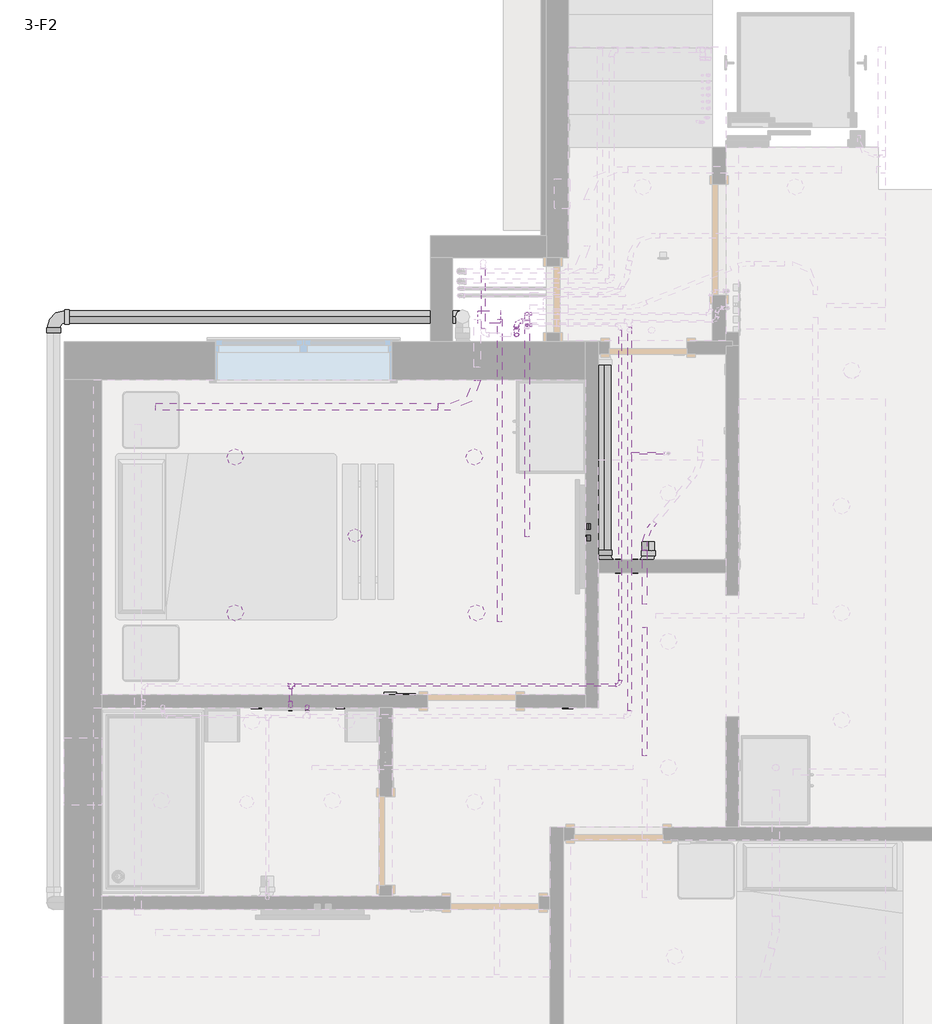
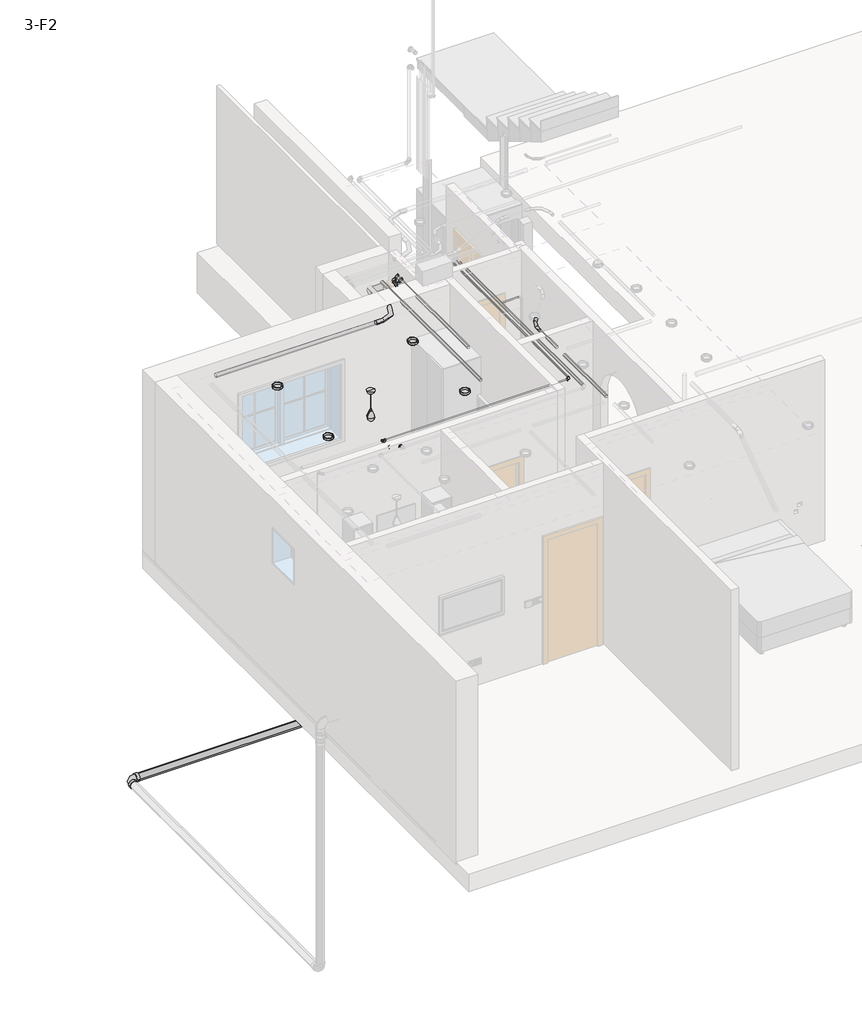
# One storey, part 7 of 12: 20 pipe segments, 17 pipe fittings, 7 proxies, 5 cable carrier segments, 5 light fixtures, 3 electric appliances, 3 switching devices, 2 cable carrier fittings.
"""IFC4 building model written with IfcOpenShell, lengths in millimetres."""

from ifc_helpers import new_model, si_unit, point, frame, frame_2d, origin, place, context, project, spatial, circle_curve, trimmed, segment, composite_curve, outline, extrude, transform, mapped, element, save
from components import m_thermostat_standard_b920d14f, wall_mounted_socket_ups_wall_mounted_socket_ups_4524048d, wall_mounted_socket_ups_wall_mounted_socket_ups_45274923, m_conduit_elbow_aluminum_standard_a49322c3, m_conduit_elbow_aluminum_standard_c7115e71, wall_mounted_data_socket_wall_mounted_data_socket_ap_474314e8, wall_mounted_data_socket_wall_mounted_data_socket_ap_766e5305, m_downlight_recessed_can_152mm_incandescent_120v_1ee42939, m_pendant_lamp_art_glass_led_standard_2036dae1, m_bend_pvc_sch_40_dwv_standard_1fb0f857, m_bend_pvc_sch_40_dwv_standard_738aab8b, m_bend_pvc_sch_40_dwv_standard_b153bf5a, m_bend_pvc_sch_40_dwv_standard_42e46e6b, m_bend_pvc_sch_40_dwv_standard_ad3fa52a, m_bend_pvc_sch_40_dwv_standard_cb2c61c2, m_tee_reducing_sanitary_pvc_sch_40_dwv_standard_53539b48, m_tee_reducing_sanitary_pvc_sch_40_dwv_standard_6f77613a, m_tee_sanitary_pvc_sch_40_dwv_standard_d1848222, switching_device_8f59fbb7, switching_device_ab05ab5c

model = new_model("IFC4")

# Units and contexts
model_context = context("Model", 3, world=origin())
ifc_project = project(units=[si_unit("LENGTHUNIT", "METRE", prefix="MILLI")], contexts=[model_context])

# Site, building, storey
site = spatial("IfcSite", under=ifc_project)
building = spatial("IfcBuilding", under=site)
storey = spatial("IfcBuildingStorey", under=building, Name="3-F2", Elevation=6550.0)

# Proxies
placement = place(None, origin())
m_thermostat_standard_shape = m_thermostat_standard_b920d14f(model_context)
element("IfcBuildingElementProxy", 1, Name="M_Thermostat : Standard", ObjectType="M_Thermostat : Standard", at=placement, inside=storey, context=model_context, shape_type="MappedRepresentation", body=[
    mapped(m_thermostat_standard_shape, transform((-6469.7814219, 140.1275048, 7750.0), x_axis=(-1.0, 0.0, 0.0), y_axis=(0.0, 0.0, 1.0), z_axis=(0.0, 1.0, 0.0))),
])
wall_mounted_socket_ups_wall_mounted_socket_ups_shape = wall_mounted_socket_ups_wall_mounted_socket_ups_4524048d(model_context)
element("IfcBuildingElementProxy", 2, Name="WALL MOUNTED SOCKET : WALL MOUNTED SOCKET", ObjectType="WALL MOUNTED SOCKET : WALL MOUNTED SOCKET", at=placement, inside=storey, context=model_context, shape_type="MappedRepresentation", body=[
    mapped(wall_mounted_socket_ups_wall_mounted_socket_ups_shape, transform((-4865.4457195, 20.1275048, 7000.0), x_axis=(1.0, 0.0, 0.0), y_axis=(0.0, 0.0, 1.0), z_axis=(0.0, -1.0, 0.0))),
])
element("IfcBuildingElementProxy", 3, Name="WALL MOUNTED SOCKET UPS : WALL MOUNTED SOCKET UPS", ObjectType="WALL MOUNTED SOCKET UPS : WALL MOUNTED SOCKET UPS", at=placement, inside=storey, context=model_context, shape_type="MappedRepresentation", body=[
    mapped(wall_mounted_socket_ups_wall_mounted_socket_ups_shape, transform((-4707.4765921, 1660.1275048, 7000.0), x_axis=(0.0, -1.0, 0.0), y_axis=(0.0, 0.0, 1.0), z_axis=(-1.0, 0.0, 0.0))),
])
element("IfcBuildingElementProxy", 4, Name="WALL MOUNTED SOCKET UPS : WALL MOUNTED SOCKET UPS", ObjectType="WALL MOUNTED SOCKET UPS : WALL MOUNTED SOCKET UPS", at=placement, inside=storey, context=model_context, shape_type="MappedRepresentation", body=[
    mapped(wall_mounted_socket_ups_wall_mounted_socket_ups_shape, transform((-9147.4765921, 2563.4038048, 7350.0), x_axis=(0.0, 1.0, 0.0), y_axis=(0.0, 0.0, 1.0), z_axis=(1.0, 0.0, 0.0))),
])
element("IfcBuildingElementProxy", 5, Name="WALL MOUNTED SOCKET UPS : WALL MOUNTED SOCKET UPS", ObjectType="WALL MOUNTED SOCKET UPS : WALL MOUNTED SOCKET UPS", at=placement, inside=storey, context=model_context, shape_type="MappedRepresentation", body=[
    mapped(wall_mounted_socket_ups_wall_mounted_socket_ups_shape, transform((-4707.4765921, 1660.1275048, 7750.0), x_axis=(0.0, -1.0, 0.0), y_axis=(0.0, 0.0, 1.0), z_axis=(-1.0, 0.0, 0.0))),
])
element("IfcBuildingElementProxy", 6, Name="WALL MOUNTED SOCKET UPS : WALL MOUNTED SOCKET UPS", ObjectType="WALL MOUNTED SOCKET UPS : WALL MOUNTED SOCKET UPS", at=placement, inside=storey, context=model_context, shape_type="MappedRepresentation", body=[
    mapped(wall_mounted_socket_ups_wall_mounted_socket_ups_shape, transform((-6909.7814219, 20.1275048, 7650.0), x_axis=(1.0, 0.0, 0.0), y_axis=(0.0, 0.0, 1.0), z_axis=(0.0, -1.0, 0.0))),
])
wall_mounted_socket_ups_wall_mounted_socket_ups_2_shape = wall_mounted_socket_ups_wall_mounted_socket_ups_45274923(model_context)
element("IfcBuildingElementProxy", 7, Name="WALL MOUNTED SOCKET UPS : WALL MOUNTED SOCKET UPS", ObjectType="WALL MOUNTED SOCKET UPS : WALL MOUNTED SOCKET UPS", at=placement, inside=storey, context=model_context, shape_type="MappedRepresentation", body=[
    mapped(wall_mounted_socket_ups_wall_mounted_socket_ups_2_shape, transform((-7680.0, 20.1275048, 7650.0), x_axis=(-1.0, 0.0, 0.0), y_axis=(0.0, 0.0, -1.0), z_axis=(0.0, -1.0, 0.0))),
])

# Cable carrier fittings
m_conduit_elbow_aluminum_standard_shape = m_conduit_elbow_aluminum_standard_a49322c3(model_context)
element("IfcCableCarrierFitting", 8, ObjectType="M_Conduit Elbow - Aluminum : Standard", at=placement, inside=storey, context=model_context, shape_type="MappedRepresentation", body=[
    mapped(m_conduit_elbow_aluminum_standard_shape, transform((-5682.4765921, 2740.4291386, 9619.835), x_axis=(0.999999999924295, 0.0, -1.2304879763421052e-05), y_axis=(0.0, 1.0, 0.0), z_axis=(1.2304879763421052e-05, 0.0, 0.999999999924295))),
])
m_conduit_elbow_aluminum_standard_2_shape = m_conduit_elbow_aluminum_standard_c7115e71(model_context)
element("IfcCableCarrierFitting", 9, ObjectType="M_Conduit Elbow - Aluminum : Standard", at=placement, inside=storey, context=model_context, shape_type="MappedRepresentation", body=[
    mapped(m_conduit_elbow_aluminum_standard_2_shape, transform((-4171.5261339, 1587.8367648, 9630.825), x_axis=(-0.6427876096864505, -0.7660444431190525, 0.0), y_axis=(0.7660444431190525, -0.6427876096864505, 0.0), z_axis=(0.0, 0.0, 1.0))),
])

# Cable carrier segments
element("IfcCableCarrierSegment", 10, ObjectType="Power", at=placement, inside=storey, context=model_context, shape_type="SweptSolid", body=[
    extrude(outline(composite_curve([segment(trimmed(circle_curve(frame_2d((0.0, 30.165)), 30.165), [point((-30.165, 30.165))], [point((0.0, 60.33))], False, "CARTESIAN"), True, "CONTINUOUS"), segment(trimmed(circle_curve(frame_2d((0.0, 30.165)), 30.165), [point((0.0, 60.33))], [point((30.165, 30.165))], False, "CARTESIAN"), True, "CONTINUOUS"), segment(trimmed(circle_curve(frame_2d((0.0, 30.165)), 30.165), [point((30.165, 30.165))], [point((0.0, 0.0))], False, "CARTESIAN"), True, "CONTINUOUS"), segment(trimmed(circle_curve(frame_2d((0.0, 30.165)), 30.165), [point((0.0, 0.0))], [point((-30.165, 30.165))], False, "CARTESIAN"), True, "CONTINUOUS")], self_intersect=False)), frame((-6038.076964, 2740.4291386, 9589.6743756), z_axis=(-0.9999999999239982, 0.0, 1.2328981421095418e-05), x_axis=(0.0, -1.0, 0.0)), (0.0, 0.0, 1.0), 2552.7048295),
])
element("IfcCableCarrierSegment", 11, ObjectType="Power", at=placement, inside=storey, context=model_context, shape_type="SweptSolid", body=[
    extrude(outline(composite_curve([segment(trimmed(circle_curve(frame_2d((9628.92, -5232.2814219)), 21.08), [point((9628.92, -5211.2014219))], [point((9650.0, -5232.2814219))], False, "CARTESIAN"), True, "CONTINUOUS"), segment(trimmed(circle_curve(frame_2d((9628.92, -5232.2814219)), 21.08), [point((9650.0, -5232.2814219))], [point((9628.92, -5253.3614219))], False, "CARTESIAN"), True, "CONTINUOUS"), segment(trimmed(circle_curve(frame_2d((9628.92, -5232.2814219)), 21.08), [point((9628.92, -5253.3614219))], [point((9607.84, -5232.2814219))], False, "CARTESIAN"), True, "CONTINUOUS"), segment(trimmed(circle_curve(frame_2d((9628.92, -5232.2814219)), 21.08), [point((9607.84, -5232.2814219))], [point((9628.92, -5211.2014219))], False, "CARTESIAN"), True, "CONTINUOUS")], self_intersect=False)), frame((0.0, 1567.2917851, 0.0), z_axis=(0.0, 1.0, 0.0), x_axis=(0.0, 0.0, 1.0)), (0.0, 0.0, 1.0), 1964.4516808),
])
element("IfcCableCarrierSegment", 12, ObjectType="Power", at=placement, inside=storey, context=model_context, shape_type="SweptSolid", body=[
    extrude(outline(composite_curve([segment(trimmed(circle_curve(frame_2d((9630.825, -4171.5261339)), 21.08), [point((9630.825, -4150.4461339))], [point((9651.905, -4171.5261339))], False, "CARTESIAN"), True, "CONTINUOUS"), segment(trimmed(circle_curve(frame_2d((9630.825, -4171.5261339)), 21.08), [point((9651.905, -4171.5261339))], [point((9630.825, -4192.6061339))], False, "CARTESIAN"), True, "CONTINUOUS"), segment(trimmed(circle_curve(frame_2d((9630.825, -4171.5261339)), 21.08), [point((9630.825, -4192.6061339))], [point((9609.745, -4171.5261339))], False, "CARTESIAN"), True, "CONTINUOUS"), segment(trimmed(circle_curve(frame_2d((9630.825, -4171.5261339)), 21.08), [point((9609.745, -4171.5261339))], [point((9630.825, -4150.4461339))], False, "CARTESIAN"), True, "CONTINUOUS")], self_intersect=False)), frame((0.0, 957.6176449, 0.0), z_axis=(0.0, 1.0, 0.0), x_axis=(0.0, 0.0, 1.0)), (0.0, 0.0, 1.0), 486.9940013),
])
element("IfcCableCarrierSegment", 13, ObjectType="Power", at=placement, inside=storey, context=model_context, shape_type="SweptSolid", body=[
    extrude(outline(composite_curve([segment(trimmed(circle_curve(frame_2d((9630.825, -4171.5261339)), 21.08), [point((9630.825, -4150.4461339))], [point((9651.905, -4171.5261339))], False, "CARTESIAN"), True, "CONTINUOUS"), segment(trimmed(circle_curve(frame_2d((9630.825, -4171.5261339)), 21.08), [point((9651.905, -4171.5261339))], [point((9630.825, -4192.6061339))], False, "CARTESIAN"), True, "CONTINUOUS"), segment(trimmed(circle_curve(frame_2d((9630.825, -4171.5261339)), 21.08), [point((9630.825, -4192.6061339))], [point((9609.745, -4171.5261339))], False, "CARTESIAN"), True, "CONTINUOUS"), segment(trimmed(circle_curve(frame_2d((9630.825, -4171.5261339)), 21.08), [point((9609.745, -4171.5261339))], [point((9630.825, -4150.4461339))], False, "CARTESIAN"), True, "CONTINUOUS")], self_intersect=False)), frame((0.0, -413.5178652, 0.0), z_axis=(0.0, 1.0, 0.0), x_axis=(0.0, 0.0, 1.0)), (0.0, 0.0, 1.0), 1161.1355101),
])
element("IfcCableCarrierSegment", 14, ObjectType="Power", at=placement, inside=storey, context=model_context, shape_type="SweptSolid", body=[
    extrude(outline(composite_curve([segment(trimmed(circle_curve(frame_2d((9630.825, -5480.4457195)), 21.08), [point((9630.825, -5501.5257195))], [point((9609.745, -5480.4457195))], False, "CARTESIAN"), True, "CONTINUOUS"), segment(trimmed(circle_curve(frame_2d((9630.825, -5480.4457195)), 21.08), [point((9609.745, -5480.4457195))], [point((9630.825, -5459.3657195))], False, "CARTESIAN"), True, "CONTINUOUS"), segment(trimmed(circle_curve(frame_2d((9630.825, -5480.4457195)), 21.08), [point((9630.825, -5459.3657195))], [point((9651.905, -5480.4457195))], False, "CARTESIAN"), True, "CONTINUOUS"), segment(trimmed(circle_curve(frame_2d((9630.825, -5480.4457195)), 21.08), [point((9651.905, -5480.4457195))], [point((9630.825, -5501.5257195))], False, "CARTESIAN"), True, "CONTINUOUS")], self_intersect=False)), frame((0.0, 796.743466, 0.0), z_axis=(0.0, 1.0, 0.0), x_axis=(0.0, 0.0, 1.0)), (0.0, 0.0, 1.0), 2735.0),
])

# Electric appliances
wall_mounted_data_socket_wall_mounted_data_socket_ap_shape = wall_mounted_data_socket_wall_mounted_data_socket_ap_474314e8(model_context)
element("IfcElectricAppliance", 15, ObjectType="WALL MOUNTED DATA SOCKET : WALL MOUNTED DATA SOCKET AP", at=placement, inside=storey, context=model_context, shape_type="MappedRepresentation", body=[
    mapped(wall_mounted_data_socket_wall_mounted_data_socket_ap_shape, transform((-4707.4765921, 1553.3775048, 7000.0), x_axis=(0.0, -1.0, 0.0), y_axis=(0.0, 0.0, 1.0), z_axis=(-1.0, 0.0, 0.0))),
])
element("IfcElectricAppliance", 16, ObjectType="WALL MOUNTED DATA SOCKET : WALL MOUNTED DATA SOCKET AP", at=placement, inside=storey, context=model_context, shape_type="MappedRepresentation", body=[
    mapped(wall_mounted_data_socket_wall_mounted_data_socket_ap_shape, transform((-9147.4765921, 2618.7450957, 7250.0), x_axis=(0.0, 1.0, 0.0), y_axis=(0.0, 0.0, 1.0), z_axis=(1.0, 0.0, 0.0))),
])
wall_mounted_data_socket_wall_mounted_data_socket_ap_2_shape = wall_mounted_data_socket_wall_mounted_data_socket_ap_766e5305(model_context)
element("IfcElectricAppliance", 17, ObjectType="WALL MOUNTED DATA SOCKET : WALL MOUNTED DATA SOCKET AP", at=placement, inside=storey, context=model_context, shape_type="MappedRepresentation", body=[
    mapped(wall_mounted_data_socket_wall_mounted_data_socket_ap_2_shape, transform((-4707.4765921, 1553.8775048, 7750.0), x_axis=(0.0, 1.0, 0.0), y_axis=(0.0, 0.0, -1.0), z_axis=(-1.0, 0.0, 0.0))),
])

# Light fixtures
m_downlight_recessed_can_152mm_incandescent_120v_shape = m_downlight_recessed_can_152mm_incandescent_120v_1ee42939(model_context)
element("IfcLightFixture", 18, ObjectType="M_Downlight - Recessed Can : 203mm Incandescent - 277V", at=placement, inside=storey, context=model_context, shape_type="MappedRepresentation", body=[
    mapped(m_downlight_recessed_can_152mm_incandescent_120v_shape, transform((-5710.0538644, 2286.3055512, 6935.4), x_axis=(1.0, 0.0, 0.0), y_axis=(0.0, 1.0, 0.0), z_axis=(0.0, 0.0, 1.0))),
])
element("IfcLightFixture", 19, ObjectType="M_Downlight - Recessed Can : 203mm Incandescent - 277V", at=placement, inside=storey, context=model_context, shape_type="MappedRepresentation", body=[
    mapped(m_downlight_recessed_can_152mm_incandescent_120v_shape, transform((-7870.5121698, 2286.3055512, 6935.4), x_axis=(1.0, 0.0, 0.0), y_axis=(0.0, 1.0, 0.0), z_axis=(0.0, 0.0, 1.0))),
])
element("IfcLightFixture", 20, ObjectType="M_Downlight - Recessed Can : 203mm Incandescent - 277V", at=placement, inside=storey, context=model_context, shape_type="MappedRepresentation", body=[
    mapped(m_downlight_recessed_can_152mm_incandescent_120v_shape, transform((-7870.5121698, 879.1412709, 6935.4), x_axis=(1.0, 0.0, 0.0), y_axis=(0.0, 1.0, 0.0), z_axis=(0.0, 0.0, 1.0))),
])
element("IfcLightFixture", 21, ObjectType="M_Downlight - Recessed Can : 203mm Incandescent - 277V", at=placement, inside=storey, context=model_context, shape_type="MappedRepresentation", body=[
    mapped(m_downlight_recessed_can_152mm_incandescent_120v_shape, transform((-5690.0538644, 879.1412709, 6935.4), x_axis=(1.0, 0.0, 0.0), y_axis=(0.0, 1.0, 0.0), z_axis=(0.0, 0.0, 1.0))),
])
m_pendant_lamp_art_glass_led_standard_shape = m_pendant_lamp_art_glass_led_standard_2036dae1(model_context)
element("IfcLightFixture", 22, ObjectType="M_Pendant Lamp - Art Glass - LED : Standard", at=placement, inside=storey, context=model_context, shape_type="MappedRepresentation", body=[
    mapped(m_pendant_lamp_art_glass_led_standard_shape, transform((-6787.6686539, 1578.155037, 9450.0), x_axis=(1.0, 0.0, 0.0), y_axis=(0.0, -1.0, 0.0), z_axis=(0.0, 0.0, -1.0))),
])

# Pipe fittings
m_bend_pvc_sch_40_dwv_standard_shape = m_bend_pvc_sch_40_dwv_standard_1fb0f857(model_context)
element("IfcPipeFitting", 23, ObjectType="M_Bend - PVC - Sch 40 - DWV : Standard", at=placement, inside=storey, context=model_context, shape_type="MappedRepresentation", body=[
    mapped(m_bend_pvc_sch_40_dwv_standard_shape, transform((-9511.6999973, 3552.3881129, 2621.4), x_axis=(-1.0, 0.0, 0.0), y_axis=(0.0, -1.0, 0.0), z_axis=(0.0, 0.0, 1.0))),
])
element("IfcPipeFitting", 24, ObjectType="M_Bend - PVC - Sch 40 - DWV : Standard", at=placement, inside=storey, context=model_context, shape_type="MappedRepresentation", body=[
    mapped(m_bend_pvc_sch_40_dwv_standard_shape, transform((-4531.5261339, 1300.1275048, 6739.0), x_axis=(0.0, -1.0, 0.0), y_axis=(1.0, 0.0, 0.0), z_axis=(0.0, 0.0, 1.0))),
])
m_bend_pvc_sch_40_dwv_standard_2_shape = m_bend_pvc_sch_40_dwv_standard_738aab8b(model_context)
element("IfcPipeFitting", 25, ObjectType="M_Bend - PVC - Sch 40 - DWV : Standard", at=placement, inside=storey, context=model_context, shape_type="MappedRepresentation", body=[
    mapped(m_bend_pvc_sch_40_dwv_standard_2_shape, transform((-7294.8907109, 80.1274961, 7301.5458331), x_axis=(0.0, 1.0, 0.0), y_axis=(0.0, 0.0, -1.0), z_axis=(-1.0, 0.0, 0.0))),
])
m_bend_pvc_sch_40_dwv_standard_3_shape = m_bend_pvc_sch_40_dwv_standard_b153bf5a(model_context)
element("IfcPipeFitting", 26, ObjectType="M_Bend - PVC - Sch 40 - DWV : Standard", at=placement, inside=storey, context=model_context, shape_type="MappedRepresentation", body=[
    mapped(m_bend_pvc_sch_40_dwv_standard_3_shape, transform((-5234.2694836, 3580.1275048, 9450.0), x_axis=(0.0, 0.0, -1.0), y_axis=(0.0, -1.0, 0.0), z_axis=(-1.0, 0.0, 0.0))),
])
element("IfcPipeFitting", 27, ObjectType="M_Bend - PVC - Sch 40 - DWV : Standard", at=placement, inside=storey, context=model_context, shape_type="MappedRepresentation", body=[
    mapped(m_bend_pvc_sch_40_dwv_standard_3_shape, transform((-5327.4765921, 3513.0776886, 9620.0), x_axis=(-1.0, 0.0, 0.0), y_axis=(0.0, -0.9999999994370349, -3.3554886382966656e-05), z_axis=(0.0, -3.3554886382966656e-05, 0.9999999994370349))),
])
m_bend_pvc_sch_40_dwv_standard_4_shape = m_bend_pvc_sch_40_dwv_standard_42e46e6b(model_context)
element("IfcPipeFitting", 28, ObjectType="M_Bend - PVC - Sch 40 - DWV : Standard", at=placement, inside=storey, context=model_context, shape_type="MappedRepresentation", body=[
    mapped(m_bend_pvc_sch_40_dwv_standard_4_shape, transform((-4391.5261339, 227.8367648, 9620.0), x_axis=(1.0, 0.0, 0.0), y_axis=(0.0, 1.0, 0.0), z_axis=(0.0, 0.0, 1.0))),
])
element("IfcPipeFitting", 29, ObjectType="M_Bend - PVC - Sch 40 - DWV : Standard", at=placement, inside=storey, context=model_context, shape_type="MappedRepresentation", body=[
    mapped(m_bend_pvc_sch_40_dwv_standard_4_shape, transform((-5234.2694836, 3580.1275048, 9620.0), x_axis=(-1.0, 0.0, 0.0), y_axis=(0.0, 0.0, -1.0), z_axis=(0.0, -1.0, 0.0))),
])
element("IfcPipeFitting", 30, ObjectType="M_Bend - PVC - Sch 40 - DWV : Standard", at=placement, inside=storey, context=model_context, shape_type="MappedRepresentation", body=[
    mapped(m_bend_pvc_sch_40_dwv_standard_4_shape, transform((-7219.8907109, 35.1275048, 7000.0), x_axis=(0.0, 0.0, -1.0), y_axis=(0.0, -1.0, 0.0), z_axis=(-1.0, 0.0, 0.0))),
])
element("IfcPipeFitting", 31, ObjectType="M_Bend - PVC - Sch 40 - DWV : Standard", at=placement, inside=storey, context=model_context, shape_type="MappedRepresentation", body=[
    mapped(m_bend_pvc_sch_40_dwv_standard_4_shape, transform((-7369.8907109, 37.8367648, 7000.0), x_axis=(0.0, 0.0, -1.0), y_axis=(0.0, -1.0, 0.0), z_axis=(-1.0, 0.0, 0.0))),
])
element("IfcPipeFitting", 32, ObjectType="M_Bend - PVC - Sch 40 - DWV : Standard", at=placement, inside=storey, context=model_context, shape_type="MappedRepresentation", body=[
    mapped(m_bend_pvc_sch_40_dwv_standard_4_shape, transform((-7369.8907109, 37.8367648, 9620.0), x_axis=(0.0, -1.0, 0.0), y_axis=(0.0, 0.0, -1.0), z_axis=(1.0, 0.0, 0.0))),
])
element("IfcPipeFitting", 33, ObjectType="M_Bend - PVC - Sch 40 - DWV : Standard", at=placement, inside=storey, context=model_context, shape_type="MappedRepresentation", body=[
    mapped(m_bend_pvc_sch_40_dwv_standard_4_shape, transform((-7219.8907109, 35.1275048, 9620.0), x_axis=(0.0, 0.0, 1.0), y_axis=(0.0, -1.0, 0.0), z_axis=(1.0, 0.0, 0.0))),
])
element("IfcPipeFitting", 34, ObjectType="M_Bend - PVC - Sch 40 - DWV : Standard", at=placement, inside=storey, context=model_context, shape_type="MappedRepresentation", body=[
    mapped(m_bend_pvc_sch_40_dwv_standard_4_shape, transform((-5234.2694836, 3476.9560655, 9620.0), x_axis=(0.0, 0.0, 1.0), y_axis=(1.0, 0.0, 0.0), z_axis=(0.0, 1.0, 0.0))),
])
m_bend_pvc_sch_40_dwv_standard_5_shape = m_bend_pvc_sch_40_dwv_standard_ad3fa52a(model_context)
element("IfcPipeFitting", 35, ObjectType="M_Bend - PVC - Sch 40 - DWV : Standard", at=placement, inside=storey, context=model_context, shape_type="MappedRepresentation", body=[
    mapped(m_bend_pvc_sch_40_dwv_standard_5_shape, transform((-5327.4765921, 3390.576682, 9619.9958895), x_axis=(0.0, 0.0, 1.0), y_axis=(0.0, 1.0, 0.0), z_axis=(-1.0, 0.0, 0.0))),
])
m_bend_pvc_sch_40_dwv_standard_6_shape = m_bend_pvc_sch_40_dwv_standard_cb2c61c2(model_context)
element("IfcPipeFitting", 36, ObjectType="M_Bend - PVC - Sch 40 - DWV : Standard", at=placement, inside=storey, context=model_context, shape_type="MappedRepresentation", body=[
    mapped(m_bend_pvc_sch_40_dwv_standard_6_shape, transform((-7294.8907109, 80.1274961, 6537.5427733), x_axis=(0.0, 0.0, -1.0), y_axis=(-0.9999999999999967, -8.231888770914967e-08, 0.0), z_axis=(-8.231888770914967e-08, 0.9999999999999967, 0.0))),
])
m_tee_reducing_sanitary_pvc_sch_40_dwv_standard_shape = m_tee_reducing_sanitary_pvc_sch_40_dwv_standard_53539b48(model_context)
element("IfcPipeFitting", 37, ObjectType="M_Tee Reducing Sanitary - PVC - Sch 40 - DWV : Standard", at=placement, inside=storey, context=model_context, shape_type="MappedRepresentation", body=[
    mapped(m_tee_reducing_sanitary_pvc_sch_40_dwv_standard_shape, transform((-7369.8907109, 227.8367648, 9620.0), x_axis=(-1.0, 0.0, 0.0), y_axis=(0.0, 1.0, 0.0), z_axis=(0.0, 0.0, -1.0))),
])
m_tee_reducing_sanitary_pvc_sch_40_dwv_standard_2_shape = m_tee_reducing_sanitary_pvc_sch_40_dwv_standard_6f77613a(model_context)
element("IfcPipeFitting", 38, ObjectType="M_Tee Reducing Sanitary - PVC - Sch 40 - DWV : Standard", at=placement, inside=storey, context=model_context, shape_type="MappedRepresentation", body=[
    mapped(m_tee_reducing_sanitary_pvc_sch_40_dwv_standard_2_shape, transform((-4137.4765921, 1300.1275048, 6739.0), x_axis=(1.0, 0.0, 0.0), y_axis=(0.0, -0.9999999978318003, 6.585134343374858e-05), z_axis=(0.0, -6.585134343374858e-05, -0.9999999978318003))),
])
m_tee_sanitary_pvc_sch_40_dwv_standard_shape = m_tee_sanitary_pvc_sch_40_dwv_standard_d1848222(model_context)
element("IfcPipeFitting", 39, ObjectType="M_Tee Sanitary - PVC - Sch 40 - DWV : Standard", at=placement, inside=storey, context=model_context, shape_type="MappedRepresentation", body=[
    mapped(m_tee_sanitary_pvc_sch_40_dwv_standard_shape, transform((-5817.4765912, 3552.3881129, 2621.4), x_axis=(0.0, 0.0, 1.0), y_axis=(1.0, 0.0, 0.0), z_axis=(0.0, 1.0, 0.0))),
])

# Pipe segments
element("IfcPipeSegment", 40, ObjectType="PVC - DWV", at=placement, inside=storey, context=model_context, shape_type="SweptSolid", body=[
    extrude(outline(composite_curve([segment(trimmed(circle_curve(frame_2d((3552.3881129, 2621.4)), 57.15), [point((3495.2381129, 2621.4))], [point((3552.3881129, 2678.55))], False, "CARTESIAN"), True, "CONTINUOUS"), segment(trimmed(circle_curve(frame_2d((3552.3881129, 2621.4)), 57.15), [point((3552.3881129, 2678.55))], [point((3609.5381129, 2621.4))], False, "CARTESIAN"), True, "CONTINUOUS"), segment(trimmed(circle_curve(frame_2d((3552.3881129, 2621.4)), 57.15), [point((3609.5381129, 2621.4))], [point((3552.3881129, 2564.25))], False, "CARTESIAN"), True, "CONTINUOUS"), segment(trimmed(circle_curve(frame_2d((3552.3881129, 2621.4)), 57.15), [point((3552.3881129, 2564.25))], [point((3495.2381129, 2621.4))], False, "CARTESIAN"), True, "CONTINUOUS")], self_intersect=False)), frame((-9368.8249973, 0.0, 0.0), z_axis=(1.0, 0.0, 0.0), x_axis=(0.0, 1.0, 0.0)), (0.0, 0.0, 1.0), 3408.4734062),
])
element("IfcPipeSegment", 41, ObjectType="PVC - DWV", at=placement, inside=storey, context=model_context, shape_type="SweptSolid", body=[
    extrude(outline(composite_curve([segment(trimmed(circle_curve(frame_2d((0.0, 24.13)), 24.13), [point((0.0, 48.26))], [point((24.13, 24.13))], False, "CARTESIAN"), True, "CONTINUOUS"), segment(trimmed(circle_curve(frame_2d((0.0, 24.13)), 24.13), [point((24.13, 24.13))], [point((0.0, 0.0))], False, "CARTESIAN"), True, "CONTINUOUS"), segment(trimmed(circle_curve(frame_2d((0.0, 24.13)), 24.13), [point((0.0, 0.0))], [point((-24.13, 24.13))], False, "CARTESIAN"), True, "CONTINUOUS"), segment(trimmed(circle_curve(frame_2d((0.0, 24.13)), 24.13), [point((-24.13, 24.13))], [point((0.0, 48.26))], False, "CARTESIAN"), True, "CONTINUOUS")], self_intersect=False)), frame((-7319.0207109, 10.1275048, 7301.5458331), z_axis=(1.8715730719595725e-12, 1.0, 0.0), x_axis=(0.0, 0.0, 1.0)), (0.0, 0.0, 1.0), 8.1001912),
])
element("IfcPipeSegment", 42, ObjectType="PVC - DWV", at=placement, inside=storey, context=model_context, shape_type="SweptSolid", body=[
    extrude(outline(composite_curve([segment(trimmed(circle_curve(frame_2d((3552.3881129, 9525.0)), 57.15), [point((3609.5381129, 9525.0))], [point((3552.3881129, 9467.85))], False, "CARTESIAN"), True, "CONTINUOUS"), segment(trimmed(circle_curve(frame_2d((3552.3881129, 9525.0)), 57.15), [point((3552.3881129, 9467.85))], [point((3495.2381129, 9525.0))], False, "CARTESIAN"), True, "CONTINUOUS"), segment(trimmed(circle_curve(frame_2d((3552.3881129, 9525.0)), 57.15), [point((3495.2381129, 9525.0))], [point((3552.3881129, 9582.15))], False, "CARTESIAN"), True, "CONTINUOUS"), segment(trimmed(circle_curve(frame_2d((3552.3881129, 9525.0)), 57.15), [point((3552.3881129, 9582.15))], [point((3609.5381129, 9525.0))], False, "CARTESIAN"), True, "CONTINUOUS")], self_intersect=False)), frame((-5674.6015912, 0.0, 0.0), z_axis=(1.0, 0.0, 0.0), x_axis=(0.0, 1.0, 0.0)), (0.0, 0.0, 1.0), 201.6334901),
])
element("IfcPipeSegment", 43, ObjectType="PVC - DWV", at=placement, inside=storey, context=model_context, shape_type="SweptSolid", body=[
    extrude(outline(composite_curve([segment(trimmed(circle_curve(frame_2d((9620.0, -4306.5261339)), 16.7005), [point((9620.0, -4289.8256339))], [point((9636.7005, -4306.5261339))], False, "CARTESIAN"), True, "CONTINUOUS"), segment(trimmed(circle_curve(frame_2d((9620.0, -4306.5261339)), 16.7005), [point((9636.7005, -4306.5261339))], [point((9620.0, -4323.2266339))], False, "CARTESIAN"), True, "CONTINUOUS"), segment(trimmed(circle_curve(frame_2d((9620.0, -4306.5261339)), 16.7005), [point((9620.0, -4323.2266339))], [point((9603.2995, -4306.5261339))], False, "CARTESIAN"), True, "CONTINUOUS"), segment(trimmed(circle_curve(frame_2d((9620.0, -4306.5261339)), 16.7005), [point((9603.2995, -4306.5261339))], [point((9620.0, -4289.8256339))], False, "CARTESIAN"), True, "CONTINUOUS")], self_intersect=False)), frame((0.0, -3.0175828, 0.0), z_axis=(0.0, 1.0, 0.0), x_axis=(0.0, 0.0, 1.0)), (0.0, 0.0, 1.0), 3467.3273027),
])
element("IfcPipeSegment", 44, ObjectType="PVC - DWV", at=placement, inside=storey, context=model_context, shape_type="SweptSolid", body=[
    extrude(outline(composite_curve([segment(trimmed(circle_curve(frame_2d((9620.0, -4391.5261339)), 10.668), [point((9620.0, -4380.8581339))], [point((9630.668, -4391.5261339))], False, "CARTESIAN"), True, "CONTINUOUS"), segment(trimmed(circle_curve(frame_2d((9620.0, -4391.5261339)), 10.668), [point((9630.668, -4391.5261339))], [point((9620.0, -4402.1941339))], False, "CARTESIAN"), True, "CONTINUOUS"), segment(trimmed(circle_curve(frame_2d((9620.0, -4391.5261339)), 10.668), [point((9620.0, -4402.1941339))], [point((9609.332, -4391.5261339))], False, "CARTESIAN"), True, "CONTINUOUS"), segment(trimmed(circle_curve(frame_2d((9620.0, -4391.5261339)), 10.668), [point((9609.332, -4391.5261339))], [point((9620.0, -4380.8581339))], False, "CARTESIAN"), True, "CONTINUOUS")], self_intersect=False)), frame((0.0, 268.8508273, 0.0), z_axis=(0.0, 1.0, 0.0), x_axis=(0.0, 0.0, 1.0)), (0.0, 0.0, 1.0), 3167.0911756),
])
element("IfcPipeSegment", 45, ObjectType="PVC - DWV", at=placement, inside=storey, context=model_context, shape_type="SweptSolid", body=[
    extrude(outline(composite_curve([segment(trimmed(circle_curve(frame_2d((227.8367648, 9620.0)), 10.668), [point((238.5047648, 9620.0))], [point((227.8367648, 9609.332))], False, "CARTESIAN"), True, "CONTINUOUS"), segment(trimmed(circle_curve(frame_2d((227.8367648, 9620.0)), 10.668), [point((227.8367648, 9609.332))], [point((217.1687648, 9620.0))], False, "CARTESIAN"), True, "CONTINUOUS"), segment(trimmed(circle_curve(frame_2d((227.8367648, 9620.0)), 10.668), [point((217.1687648, 9620.0))], [point((227.8367648, 9630.668))], False, "CARTESIAN"), True, "CONTINUOUS"), segment(trimmed(circle_curve(frame_2d((227.8367648, 9620.0)), 10.668), [point((227.8367648, 9630.668))], [point((238.5047648, 9620.0))], False, "CARTESIAN"), True, "CONTINUOUS")], self_intersect=False)), frame((-7335.0305922, 0.0, 0.0), z_axis=(1.0, 0.0, 0.0), x_axis=(0.0, 1.0, 0.0)), (0.0, 0.0, 1.0), 2902.4903958),
])
element("IfcPipeSegment", 46, ObjectType="PVC - DWV", at=placement, inside=storey, context=model_context, shape_type="SweptSolid", body=[
    extrude(outline(composite_curve([segment(trimmed(circle_curve(frame_2d((2320.1275048, 9590.0)), 10.668), [point((2309.4595048, 9590.0))], [point((2320.1275048, 9600.668))], False, "CARTESIAN"), True, "CONTINUOUS"), segment(trimmed(circle_curve(frame_2d((2320.1275048, 9590.0)), 10.668), [point((2320.1275048, 9600.668))], [point((2330.7955048, 9590.0))], False, "CARTESIAN"), True, "CONTINUOUS"), segment(trimmed(circle_curve(frame_2d((2320.1275048, 9590.0)), 10.668), [point((2330.7955048, 9590.0))], [point((2320.1275048, 9579.332))], False, "CARTESIAN"), True, "CONTINUOUS"), segment(trimmed(circle_curve(frame_2d((2320.1275048, 9590.0)), 10.668), [point((2320.1275048, 9579.332))], [point((2309.4595048, 9590.0))], False, "CARTESIAN"), True, "CONTINUOUS")], self_intersect=False)), frame((-4291.5261339, 0.0, 0.0), z_axis=(1.0, 0.0, 0.0), x_axis=(0.0, 1.0, 0.0)), (0.0, 0.0, 1.0), 295.9414253),
])
element("IfcPipeSegment", 47, ObjectType="PVC - DWV", at=placement, inside=storey, context=model_context, shape_type="SweptSolid", body=[
    extrude(outline(composite_curve([segment(trimmed(circle_curve(frame_2d((9450.0, -5234.2694836)), 16.7005), [point((9450.0, -5250.9699836))], [point((9433.2995, -5234.2694836))], False, "CARTESIAN"), True, "CONTINUOUS"), segment(trimmed(circle_curve(frame_2d((9450.0, -5234.2694836)), 16.7005), [point((9433.2995, -5234.2694836))], [point((9450.0, -5217.5689836))], False, "CARTESIAN"), True, "CONTINUOUS"), segment(trimmed(circle_curve(frame_2d((9450.0, -5234.2694836)), 16.7005), [point((9450.0, -5217.5689836))], [point((9466.7005, -5234.2694836))], False, "CARTESIAN"), True, "CONTINUOUS"), segment(trimmed(circle_curve(frame_2d((9450.0, -5234.2694836)), 16.7005), [point((9466.7005, -5234.2694836))], [point((9450.0, -5250.9699836))], False, "CARTESIAN"), True, "CONTINUOUS")], self_intersect=False)), frame((0.0, 3516.9067842, 0.0), z_axis=(0.0, 1.0, 0.0), x_axis=(0.0, 0.0, 1.0)), (0.0, 0.0, 1.0), 10.6066581),
])
element("IfcPipeSegment", 48, ObjectType="PVC - DWV", at=placement, inside=storey, context=model_context, shape_type="SweptSolid", body=[
    extrude(outline(composite_curve([segment(trimmed(circle_curve(frame_2d((-5234.2694836, 3580.1275048)), 16.7005), [point((-5217.5689836, 3580.1275048))], [point((-5234.2694836, 3563.4270048))], False, "CARTESIAN"), True, "CONTINUOUS"), segment(trimmed(circle_curve(frame_2d((-5234.2694836, 3580.1275048)), 16.7005), [point((-5234.2694836, 3563.4270048))], [point((-5250.9699836, 3580.1275048))], False, "CARTESIAN"), True, "CONTINUOUS"), segment(trimmed(circle_curve(frame_2d((-5234.2694836, 3580.1275048)), 16.7005), [point((-5250.9699836, 3580.1275048))], [point((-5234.2694836, 3596.8280048))], False, "CARTESIAN"), True, "CONTINUOUS"), segment(trimmed(circle_curve(frame_2d((-5234.2694836, 3580.1275048)), 16.7005), [point((-5234.2694836, 3596.8280048))], [point((-5217.5689836, 3580.1275048))], False, "CARTESIAN"), True, "CONTINUOUS")], self_intersect=False)), frame((0.0, 0.0, 9502.6140625), z_axis=(0.0, 0.0, 1.0), x_axis=(1.0, 0.0, 0.0)), (0.0, 0.0, 1.0), 50.1757812),
])
element("IfcPipeSegment", 49, ObjectType="PVC - DWV", at=placement, inside=storey, context=model_context, shape_type="SweptSolid", body=[
    extrude(outline(composite_curve([segment(trimmed(circle_curve(frame_2d((-7219.8907109, 35.1275048)), 10.668), [point((-7209.2227109, 35.1275048))], [point((-7219.8907109, 24.4595048))], False, "CARTESIAN"), True, "CONTINUOUS"), segment(trimmed(circle_curve(frame_2d((-7219.8907109, 35.1275048)), 10.668), [point((-7219.8907109, 24.4595048))], [point((-7230.5587109, 35.1275048))], False, "CARTESIAN"), True, "CONTINUOUS"), segment(trimmed(circle_curve(frame_2d((-7219.8907109, 35.1275048)), 10.668), [point((-7230.5587109, 35.1275048))], [point((-7219.8907109, 45.7955048))], False, "CARTESIAN"), True, "CONTINUOUS"), segment(trimmed(circle_curve(frame_2d((-7219.8907109, 35.1275048)), 10.668), [point((-7219.8907109, 45.7955048))], [point((-7209.2227109, 35.1275048))], False, "CARTESIAN"), True, "CONTINUOUS")], self_intersect=False)), frame((0.0, 0.0, 7041.0140625), z_axis=(0.0, 0.0, 1.0), x_axis=(1.0, 0.0, 0.0)), (0.0, 0.0, 1.0), 2537.971875),
])
element("IfcPipeSegment", 50, ObjectType="PVC - DWV", at=placement, inside=storey, context=model_context, shape_type="SweptSolid", body=[
    extrude(outline(composite_curve([segment(trimmed(circle_curve(frame_2d((9620.0, -7369.8907109)), 10.668), [point((9620.0, -7380.5587109))], [point((9609.332, -7369.8907109))], False, "CARTESIAN"), True, "CONTINUOUS"), segment(trimmed(circle_curve(frame_2d((9620.0, -7369.8907109)), 10.668), [point((9609.332, -7369.8907109))], [point((9620.0, -7359.2227109))], False, "CARTESIAN"), True, "CONTINUOUS"), segment(trimmed(circle_curve(frame_2d((9620.0, -7369.8907109)), 10.668), [point((9620.0, -7359.2227109))], [point((9630.668, -7369.8907109))], False, "CARTESIAN"), True, "CONTINUOUS"), segment(trimmed(circle_curve(frame_2d((9620.0, -7369.8907109)), 10.668), [point((9630.668, -7369.8907109))], [point((9620.0, -7380.5587109))], False, "CARTESIAN"), True, "CONTINUOUS")], self_intersect=False)), frame((0.0, 78.8508273, 0.0), z_axis=(0.0, 1.0, 0.0), x_axis=(0.0, 0.0, 1.0)), (0.0, 0.0, 1.0), 113.0179687),
])
element("IfcPipeSegment", 51, ObjectType="PVC - DWV", at=placement, inside=storey, context=model_context, shape_type="SweptSolid", body=[
    extrude(outline(composite_curve([segment(trimmed(circle_curve(frame_2d((-7369.8907109, 37.8367648)), 10.668), [point((-7359.2227109, 37.8367648))], [point((-7369.8907109, 27.1687648))], False, "CARTESIAN"), True, "CONTINUOUS"), segment(trimmed(circle_curve(frame_2d((-7369.8907109, 37.8367648)), 10.668), [point((-7369.8907109, 27.1687648))], [point((-7380.5587109, 37.8367648))], False, "CARTESIAN"), True, "CONTINUOUS"), segment(trimmed(circle_curve(frame_2d((-7369.8907109, 37.8367648)), 10.668), [point((-7380.5587109, 37.8367648))], [point((-7369.8907109, 48.5047648))], False, "CARTESIAN"), True, "CONTINUOUS"), segment(trimmed(circle_curve(frame_2d((-7369.8907109, 37.8367648)), 10.668), [point((-7369.8907109, 48.5047648))], [point((-7359.2227109, 37.8367648))], False, "CARTESIAN"), True, "CONTINUOUS")], self_intersect=False)), frame((0.0, 0.0, 7041.0140625), z_axis=(0.0, 0.0, 1.0), x_axis=(1.0, 0.0, 0.0)), (0.0, 0.0, 1.0), 2537.971875),
])
element("IfcPipeSegment", 52, ObjectType="PVC - DWV", at=placement, inside=storey, context=model_context, shape_type="SweptSolid", body=[
    extrude(outline(composite_curve([segment(trimmed(circle_curve(frame_2d((8050.0, -5629.7712314)), 16.7005), [point((8050.0, -5646.4717314))], [point((8033.2995, -5629.7712314))], False, "CARTESIAN"), True, "CONTINUOUS"), segment(trimmed(circle_curve(frame_2d((8050.0, -5629.7712314)), 16.7005), [point((8033.2995, -5629.7712314))], [point((8050.0, -5613.0707314))], False, "CARTESIAN"), True, "CONTINUOUS"), segment(trimmed(circle_curve(frame_2d((8050.0, -5629.7712314)), 16.7005), [point((8050.0, -5613.0707314))], [point((8066.7005, -5629.7712314))], False, "CARTESIAN"), True, "CONTINUOUS"), segment(trimmed(circle_curve(frame_2d((8050.0, -5629.7712314)), 16.7005), [point((8066.7005, -5629.7712314))], [point((8050.0, -5646.4717314))], False, "CARTESIAN"), True, "CONTINUOUS")], self_intersect=False)), frame((0.0, 3443.1917511, 0.0), z_axis=(0.0, 1.0, 0.0), x_axis=(0.0, 0.0, 1.0)), (0.0, 0.0, 1.0), 550.335828),
])
element("IfcPipeSegment", 53, ObjectType="PVC - DWV", at=placement, inside=storey, context=model_context, shape_type="SweptSolid", body=[
    extrude(outline(composite_curve([segment(trimmed(circle_curve(frame_2d((0.0, -16.7005)), 16.7005), [point((-16.7005, -16.7005))], [point((0.0, 0.0))], False, "CARTESIAN"), True, "CONTINUOUS"), segment(trimmed(circle_curve(frame_2d((0.0, -16.7005)), 16.7005), [point((0.0, 0.0))], [point((16.7005, -16.7005))], False, "CARTESIAN"), True, "CONTINUOUS"), segment(trimmed(circle_curve(frame_2d((0.0, -16.7005)), 16.7005), [point((16.7005, -16.7005))], [point((0.0, -33.401))], False, "CARTESIAN"), True, "CONTINUOUS"), segment(trimmed(circle_curve(frame_2d((0.0, -16.7005)), 16.7005), [point((0.0, -33.401))], [point((-16.7005, -16.7005))], False, "CARTESIAN"), True, "CONTINUOUS")], self_intersect=False)), frame((-5327.4765921, 3373.8771886, 8388.9999857), z_axis=(0.0, -8.542618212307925e-07, 0.9999999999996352), x_axis=(-1.0, 0.0, 0.0)), (0.0, 0.0, 1.0), 1178.381827),
])
element("IfcPipeSegment", 54, ObjectType="PVC - DWV", at=placement, inside=storey, context=model_context, shape_type="SweptSolid", body=[
    extrude(outline(composite_curve([segment(trimmed(circle_curve(frame_2d((9619.997655, -5327.4765921)), 16.7005), [point((9619.997655, -5310.7760921))], [point((9636.698155, -5327.4765921))], False, "CARTESIAN"), True, "CONTINUOUS"), segment(trimmed(circle_curve(frame_2d((9619.997655, -5327.4765921)), 16.7005), [point((9636.698155, -5327.4765921))], [point((9619.997655, -5344.1770921))], False, "CARTESIAN"), True, "CONTINUOUS"), segment(trimmed(circle_curve(frame_2d((9619.997655, -5327.4765921)), 16.7005), [point((9619.997655, -5344.1770921))], [point((9603.297155, -5327.4765921))], False, "CARTESIAN"), True, "CONTINUOUS"), segment(trimmed(circle_curve(frame_2d((9619.997655, -5327.4765921)), 16.7005), [point((9603.297155, -5327.4765921))], [point((9619.997655, -5310.7760921))], False, "CARTESIAN"), True, "CONTINUOUS")], self_intersect=False)), frame((0.0, 3443.1907445, 0.0), z_axis=(0.0, 1.0, 0.0), x_axis=(0.0, 0.0, 1.0)), (0.0, 0.0, 1.0), 17.2728817),
])
element("IfcPipeSegment", 55, ObjectType="PVC - DWV", at=placement, inside=storey, context=model_context, shape_type="SweptSolid", body=[
    extrude(outline(composite_curve([segment(trimmed(circle_curve(frame_2d((-5234.2694836, 3476.9560655)), 10.668), [point((-5244.9374836, 3476.9560655))], [point((-5234.2694836, 3487.6240655))], False, "CARTESIAN"), True, "CONTINUOUS"), segment(trimmed(circle_curve(frame_2d((-5234.2694836, 3476.9560655)), 10.668), [point((-5234.2694836, 3487.6240655))], [point((-5223.6014836, 3476.9560655))], False, "CARTESIAN"), True, "CONTINUOUS"), segment(trimmed(circle_curve(frame_2d((-5234.2694836, 3476.9560655)), 10.668), [point((-5223.6014836, 3476.9560655))], [point((-5234.2694836, 3466.2880655))], False, "CARTESIAN"), True, "CONTINUOUS"), segment(trimmed(circle_curve(frame_2d((-5234.2694836, 3476.9560655)), 10.668), [point((-5234.2694836, 3466.2880655))], [point((-5244.9374836, 3476.9560655))], False, "CARTESIAN"), True, "CONTINUOUS")], self_intersect=False)), frame((0.0, 0.0, 9491.2679688), z_axis=(0.0, 0.0, 1.0), x_axis=(1.0, 0.0, 0.0)), (0.0, 0.0, 1.0), 87.7179688),
])
element("IfcPipeSegment", 56, ObjectType="PVC - DWV", at=placement, inside=storey, context=model_context, shape_type="SweptSolid", body=[
    extrude(outline(composite_curve([segment(trimmed(circle_curve(frame_2d((0.0, 57.15)), 57.15), [point((0.0, 0.0))], [point((-57.1499999, 57.15))], False, "CARTESIAN"), True, "CONTINUOUS"), segment(trimmed(circle_curve(frame_2d((0.0, 57.15)), 57.15), [point((-57.1499999, 57.15))], [point((0.0, 114.3))], False, "CARTESIAN"), True, "CONTINUOUS"), segment(trimmed(circle_curve(frame_2d((0.0, 57.15)), 57.15), [point((0.0, 114.3))], [point((57.15, 57.15))], False, "CARTESIAN"), True, "CONTINUOUS"), segment(trimmed(circle_curve(frame_2d((0.0, 57.15)), 57.15), [point((57.15, 57.15))], [point((0.0, 0.0))], False, "CARTESIAN"), True, "CONTINUOUS")], self_intersect=False)), frame((-4194.6265921, 1522.5747441, 6738.9853516), z_axis=(0.0, -0.9999999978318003, 6.585134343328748e-05), x_axis=(0.0, -6.585134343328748e-05, -0.9999999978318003)), (0.0, 0.0, 1.0), 81.6495835),
])
element("IfcPipeSegment", 57, ObjectType="PVC - DWV", at=placement, inside=storey, context=model_context, shape_type="SweptSolid", body=[
    extrude(outline(composite_curve([segment(trimmed(circle_curve(frame_2d((1300.1275048, 6739.0)), 57.15), [point((1357.2775048, 6739.0))], [point((1300.1275048, 6681.85))], False, "CARTESIAN"), True, "CONTINUOUS"), segment(trimmed(circle_curve(frame_2d((1300.1275048, 6739.0)), 57.15), [point((1300.1275048, 6681.85))], [point((1242.9775048, 6739.0))], False, "CARTESIAN"), True, "CONTINUOUS"), segment(trimmed(circle_curve(frame_2d((1300.1275048, 6739.0)), 57.15), [point((1242.9775048, 6739.0))], [point((1300.1275048, 6796.15))], False, "CARTESIAN"), True, "CONTINUOUS"), segment(trimmed(circle_curve(frame_2d((1300.1275048, 6739.0)), 57.15), [point((1300.1275048, 6796.15))], [point((1357.2775048, 6739.0))], False, "CARTESIAN"), True, "CONTINUOUS")], self_intersect=False)), frame((-4388.6511339, 0.0, 0.0), z_axis=(1.0, 0.0, 0.0), x_axis=(0.0, 1.0, 0.0)), (0.0, 0.0, 1.0), 113.2646355),
])
element("IfcPipeSegment", 58, ObjectType="PVC - DWV", at=placement, inside=storey, context=model_context, shape_type="SweptSolid", body=[
    extrude(outline(composite_curve([segment(trimmed(circle_curve(frame_2d((6739.0, -4531.5261339)), 57.15), [point((6739.0, -4474.3761339))], [point((6796.15, -4531.5261339))], False, "CARTESIAN"), True, "CONTINUOUS"), segment(trimmed(circle_curve(frame_2d((6739.0, -4531.5261339)), 57.15), [point((6796.15, -4531.5261339))], [point((6739.0, -4588.6761339))], False, "CARTESIAN"), True, "CONTINUOUS"), segment(trimmed(circle_curve(frame_2d((6739.0, -4531.5261339)), 57.15), [point((6739.0, -4588.6761339))], [point((6681.85, -4531.5261339))], False, "CARTESIAN"), True, "CONTINUOUS"), segment(trimmed(circle_curve(frame_2d((6739.0, -4531.5261339)), 57.15), [point((6681.85, -4531.5261339))], [point((6739.0, -4474.3761339))], False, "CARTESIAN"), True, "CONTINUOUS")], self_intersect=False)), frame((0.0, 1443.0025048, 0.0), z_axis=(0.0, 1.0, 0.0), x_axis=(0.0, 0.0, 1.0)), (0.0, 0.0, 1.0), 1676.5484139),
])
element("IfcPipeSegment", 59, ObjectType="PVC - DWV", at=placement, inside=storey, context=model_context, shape_type="SweptSolid", body=[
    extrude(outline(composite_curve([segment(trimmed(circle_curve(frame_2d((-7294.8907109, 80.1274961)), 24.13), [point((-7270.7607109, 80.1274961))], [point((-7294.8907109, 55.9974961))], False, "CARTESIAN"), True, "CONTINUOUS"), segment(trimmed(circle_curve(frame_2d((-7294.8907109, 80.1274961)), 24.13), [point((-7294.8907109, 55.9974961))], [point((-7319.0207109, 80.1274961))], False, "CARTESIAN"), True, "CONTINUOUS"), segment(trimmed(circle_curve(frame_2d((-7294.8907109, 80.1274961)), 24.13), [point((-7319.0207109, 80.1274961))], [point((-7294.8907109, 104.2574961))], False, "CARTESIAN"), True, "CONTINUOUS"), segment(trimmed(circle_curve(frame_2d((-7294.8907109, 80.1274961)), 24.13), [point((-7294.8907109, 104.2574961))], [point((-7270.7607109, 80.1274961))], False, "CARTESIAN"), True, "CONTINUOUS")], self_intersect=False)), frame((0.0, 0.0, 6599.4425733), z_axis=(0.0, 0.0, 1.0), x_axis=(1.0, 0.0, 0.0)), (0.0, 0.0, 1.0), 640.2034598),
])

# Switching devices
switching_device_shape = switching_device_8f59fbb7(model_context)
element("IfcSwitchingDevice", 60, ObjectType="TWO WAY ONE GANG LIGHTING SWICH : TWO WAY ONE GANG LIGHTING SWICH", at=placement, inside=storey, context=model_context, shape_type="MappedRepresentation", body=[
    mapped(switching_device_shape, transform((-9147.4765921, 2659.7614645, 7350.0), x_axis=(0.0, 1.0, 0.0), y_axis=(0.0, 0.0, 1.0), z_axis=(1.0, 0.0, 0.0))),
])
element("IfcSwitchingDevice", 61, ObjectType="TWO WAY ONE GANG LIGHTING SWICH : TWO WAY ONE GANG LIGHTING SWICH", at=placement, inside=storey, context=model_context, shape_type="MappedRepresentation", body=[
    mapped(switching_device_shape, transform((-6369.7814219, 140.1275048, 7700.0), x_axis=(-1.0, 0.0, 0.0), y_axis=(0.0, 0.0, 1.0), z_axis=(0.0, 1.0, 0.0))),
])
switching_device_2_shape = switching_device_ab05ab5c(model_context)
element("IfcSwitchingDevice", 62, ObjectType="ONE WAY ONE GANG LIGHTING SWICH : ONE WAY ONE GANG LIGHTING SWICH", at=placement, inside=storey, context=model_context, shape_type="MappedRepresentation", body=[
    mapped(switching_device_2_shape, transform((-6289.7814219, 140.1275048, 7700.0), x_axis=(-1.0, 0.0, 0.0), y_axis=(0.0, 0.0, 1.0), z_axis=(0.0, 1.0, 0.0))),
])

save(model, "model.ifc")
